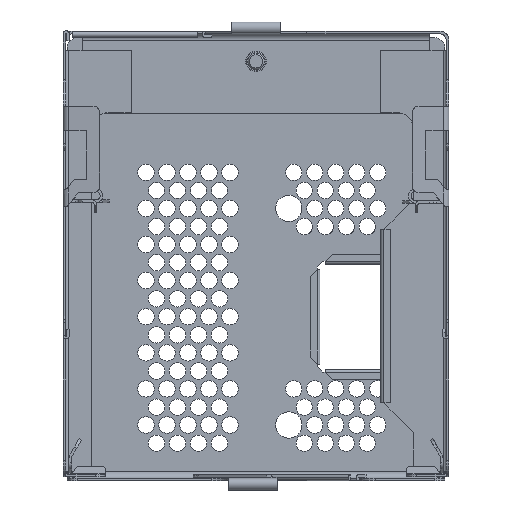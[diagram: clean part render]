
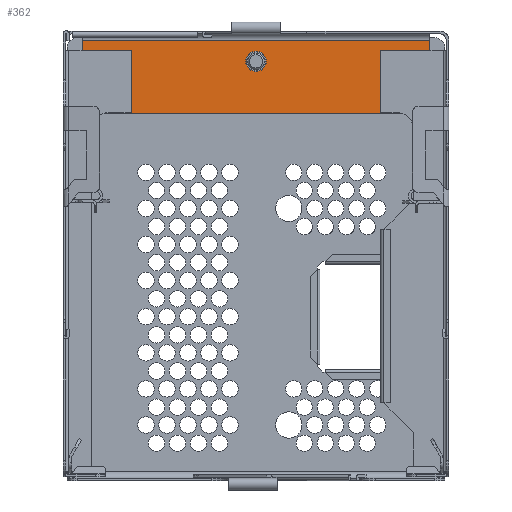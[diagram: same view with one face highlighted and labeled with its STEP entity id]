
A CAD part, front view. The second image highlights one B-rep face of the part: STEP entity #362.
In plain terms, the highlighted planar face has unit normal (0, -1, 0).
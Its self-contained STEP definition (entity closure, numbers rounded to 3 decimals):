
#362 = ADVANCED_FACE( '', ( #1343, #1344 ), #1345, .F. );
#1343 = FACE_OUTER_BOUND( '', #3150, .T. );
#1344 = FACE_BOUND( '', #3151, .T. );
#1345 = PLANE( '', #3152 );
#3150 = EDGE_LOOP( '', ( #6225, #6226, #6227, #6228, #6229, #6230 ) );
#3151 = EDGE_LOOP( '', ( #6231, #6232 ) );
#3152 = AXIS2_PLACEMENT_3D( '', #6233, #6234, #6235 );
#6225 = ORIENTED_EDGE( '', *, *, #12029, .F. );
#6226 = ORIENTED_EDGE( '', *, *, #12030, .T. );
#6227 = ORIENTED_EDGE( '', *, *, #12031, .F. );
#6228 = ORIENTED_EDGE( '', *, *, #12032, .F. );
#6229 = ORIENTED_EDGE( '', *, *, #12033, .F. );
#6230 = ORIENTED_EDGE( '', *, *, #12034, .F. );
#6231 = ORIENTED_EDGE( '', *, *, #12028, .F. );
#6232 = ORIENTED_EDGE( '', *, *, #11467, .F. );
#6233 = CARTESIAN_POINT( '', ( 0., -0.8, 8.4 ) );
#6234 = DIRECTION( '', ( 0., 1., 0. ) );
#6235 = DIRECTION( '', ( 0., 0., 1. ) );
#11467 = EDGE_CURVE( '', #13740, #13736, #13742, .T. );
#12028 = EDGE_CURVE( '', #13736, #13740, #14678, .T. );
#12029 = EDGE_CURVE( '', #14679, #14680, #14681, .T. );
#12030 = EDGE_CURVE( '', #14679, #14682, #14683, .T. );
#12031 = EDGE_CURVE( '', #14684, #14682, #14685, .T. );
#12032 = EDGE_CURVE( '', #14686, #14684, #14687, .T. );
#12033 = EDGE_CURVE( '', #14688, #14686, #14689, .T. );
#12034 = EDGE_CURVE( '', #14680, #14688, #14690, .T. );
#13736 = VERTEX_POINT( '', #17483 );
#13740 = VERTEX_POINT( '', #17487 );
#13742 = CIRCLE( '', #17489, 3.1 );
#14678 = CIRCLE( '', #18854, 3.1 );
#14679 = VERTEX_POINT( '', #18855 );
#14680 = VERTEX_POINT( '', #18856 );
#14681 = LINE( '', #18857, #18858 );
#14682 = VERTEX_POINT( '', #18859 );
#14683 = LINE( '', #18860, #18861 );
#14684 = VERTEX_POINT( '', #18862 );
#14685 = LINE( '', #18863, #18864 );
#14686 = VERTEX_POINT( '', #18865 );
#14687 = LINE( '', #18866, #18867 );
#14688 = VERTEX_POINT( '', #18868 );
#14689 = LINE( '', #18869, #18870 );
#14690 = LINE( '', #18871, #18872 );
#17483 = CARTESIAN_POINT( '', ( 0., -0.8, -3.1 ) );
#17487 = CARTESIAN_POINT( '', ( 0., -0.8, 3.1 ) );
#17489 = AXIS2_PLACEMENT_3D( '', #22683, #22684, #22685 );
#18854 = AXIS2_PLACEMENT_3D( '', #23508, #23509, #23510 );
#18855 = CARTESIAN_POINT( '', ( 53., -0.8, 6.4 ) );
#18856 = CARTESIAN_POINT( '', ( 53., -0.8, -8.8 ) );
#18857 = CARTESIAN_POINT( '', ( 53., -0.8, 6.4 ) );
#18858 = VECTOR( '', #23511, 1. );
#18859 = CARTESIAN_POINT( '', ( -53., -0.8, 6.4 ) );
#18860 = CARTESIAN_POINT( '', ( 53., -0.8, 6.4 ) );
#18861 = VECTOR( '', #23512, 1. );
#18862 = CARTESIAN_POINT( '', ( -53., -0.8, -8.8 ) );
#18863 = CARTESIAN_POINT( '', ( -53., -0.8, -8.8 ) );
#18864 = VECTOR( '', #23513, 1. );
#18865 = CARTESIAN_POINT( '', ( -46., -0.8, -15.8 ) );
#18866 = CARTESIAN_POINT( '', ( -46., -0.8, -15.8 ) );
#18867 = VECTOR( '', #23514, 1. );
#18868 = CARTESIAN_POINT( '', ( 46., -0.8, -15.8 ) );
#18869 = CARTESIAN_POINT( '', ( 46., -0.8, -15.8 ) );
#18870 = VECTOR( '', #23515, 1. );
#18871 = CARTESIAN_POINT( '', ( 53., -0.8, -8.8 ) );
#18872 = VECTOR( '', #23516, 1. );
#22683 = CARTESIAN_POINT( '', ( 0., -0.8, 0. ) );
#22684 = DIRECTION( '', ( 0., -1., 0. ) );
#22685 = DIRECTION( '', ( 0., 0., 1. ) );
#23508 = CARTESIAN_POINT( '', ( 0., -0.8, 0. ) );
#23509 = DIRECTION( '', ( 0., -1., 0. ) );
#23510 = DIRECTION( '', ( 0., 0., 1. ) );
#23511 = DIRECTION( '', ( 0., 0., -1. ) );
#23512 = DIRECTION( '', ( -1., 0., 0. ) );
#23513 = DIRECTION( '', ( 0., 0., 1. ) );
#23514 = DIRECTION( '', ( -0.707, 0., 0.707 ) );
#23515 = DIRECTION( '', ( -1., 0., 0. ) );
#23516 = DIRECTION( '', ( -0.707, 0., -0.707 ) );
